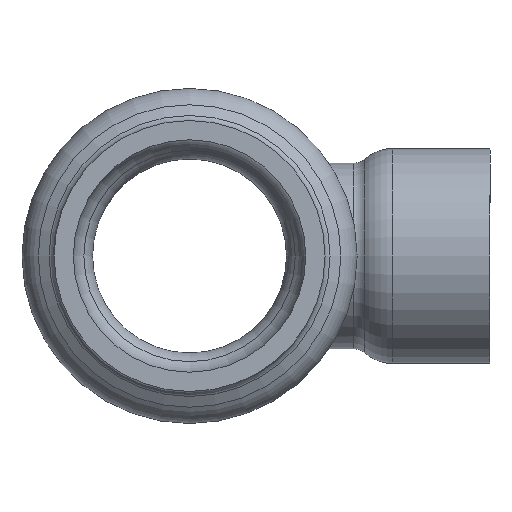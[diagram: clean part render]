
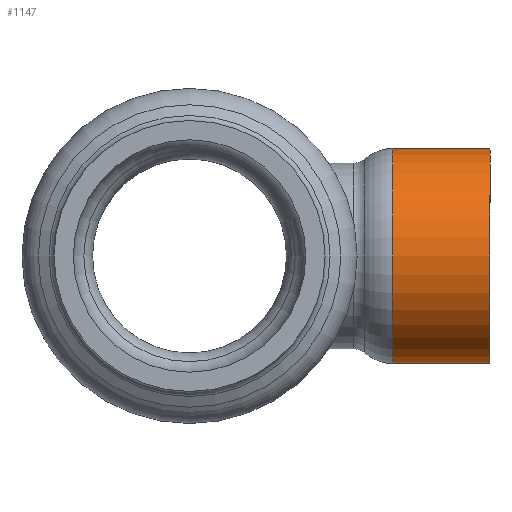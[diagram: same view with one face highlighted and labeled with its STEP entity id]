
A CAD part, left-side view. The second image highlights one B-rep face of the part: STEP entity #1147.
In plain terms, the highlighted cylindrical face has radius 15.443 mm (diameter 30.886 mm), a full revolution.
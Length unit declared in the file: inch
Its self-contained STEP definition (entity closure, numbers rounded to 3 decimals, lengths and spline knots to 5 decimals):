
#85=FACE_OUTER_BOUND('',#134,.T.);
#134=EDGE_LOOP('',(#728,#729,#730,#731,#732,#733));
#188=CIRCLE('',#1221,0.608);
#189=CIRCLE('',#1222,0.608);
#190=CIRCLE('',#1223,0.608);
#191=CIRCLE('',#1224,0.608);
#338=LINE('',#2021,#362);
#362=VECTOR('',#1450,0.608);
#404=VERTEX_POINT('',#2016);
#405=VERTEX_POINT('',#2017);
#406=VERTEX_POINT('',#2020);
#407=VERTEX_POINT('',#2022);
#542=EDGE_CURVE('',#404,#405,#188,.T.);
#543=EDGE_CURVE('',#405,#404,#189,.T.);
#544=EDGE_CURVE('',#405,#406,#338,.T.);
#545=EDGE_CURVE('',#406,#407,#190,.T.);
#546=EDGE_CURVE('',#407,#406,#191,.T.);
#728=ORIENTED_EDGE('',*,*,#542,.F.);
#729=ORIENTED_EDGE('',*,*,#543,.F.);
#730=ORIENTED_EDGE('',*,*,#544,.T.);
#731=ORIENTED_EDGE('',*,*,#545,.T.);
#732=ORIENTED_EDGE('',*,*,#546,.T.);
#733=ORIENTED_EDGE('',*,*,#544,.F.);
#1082=CYLINDRICAL_SURFACE('',#1220,0.608);
#1147=ADVANCED_FACE('',(#85),#1082,.T.);
#1220=AXIS2_PLACEMENT_3D('',#2015,#1444,#1445);
#1221=AXIS2_PLACEMENT_3D('',#2018,#1446,#1447);
#1222=AXIS2_PLACEMENT_3D('',#2019,#1448,#1449);
#1223=AXIS2_PLACEMENT_3D('',#2023,#1451,#1452);
#1224=AXIS2_PLACEMENT_3D('',#2024,#1453,#1454);
#1444=DIRECTION('center_axis',(0.,1.,0.));
#1445=DIRECTION('ref_axis',(0.,0.,1.));
#1446=DIRECTION('center_axis',(0.,1.,0.));
#1447=DIRECTION('ref_axis',(0.,0.,1.));
#1448=DIRECTION('center_axis',(0.,1.,0.));
#1449=DIRECTION('ref_axis',(0.,0.,1.));
#1450=DIRECTION('',(0.,-1.,0.));
#1451=DIRECTION('center_axis',(0.,1.,0.));
#1452=DIRECTION('ref_axis',(0.,0.,1.));
#1453=DIRECTION('center_axis',(0.,1.,0.));
#1454=DIRECTION('ref_axis',(0.,0.,1.));
#2015=CARTESIAN_POINT('Origin',(0.,-1.425,0.));
#2016=CARTESIAN_POINT('',(0.,-1.15,0.608));
#2017=CARTESIAN_POINT('',(0.,-1.15,-0.608));
#2018=CARTESIAN_POINT('Origin',(0.,-1.15,0.));
#2019=CARTESIAN_POINT('Origin',(0.,-1.15,0.));
#2020=CARTESIAN_POINT('',(0.,-1.7,-0.608));
#2021=CARTESIAN_POINT('',(0.,-1.425,-0.608));
#2022=CARTESIAN_POINT('',(0.,-1.7,0.608));
#2023=CARTESIAN_POINT('Origin',(0.,-1.7,0.));
#2024=CARTESIAN_POINT('Origin',(0.,-1.7,0.));
